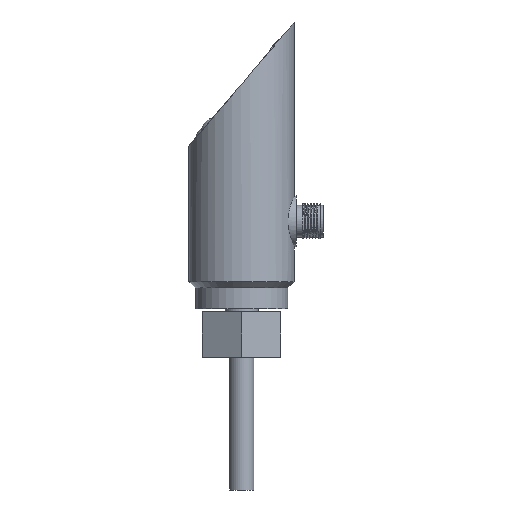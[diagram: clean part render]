
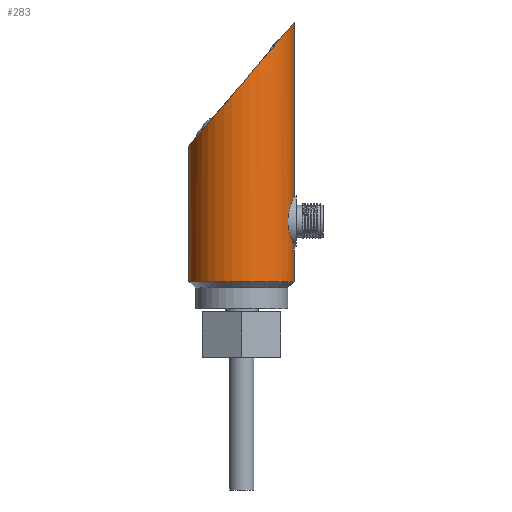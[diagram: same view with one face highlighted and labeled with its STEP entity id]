
A CAD part, front view. The second image highlights one B-rep face of the part: STEP entity #283.
In plain terms, the highlighted cylindrical face has radius 17.5 mm (diameter 35 mm), a full revolution.
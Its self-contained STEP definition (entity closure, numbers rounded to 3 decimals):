
#121=CYLINDRICAL_SURFACE('',#2872,17.5);
#278=ELLIPSE('',#2864,27.001,17.5);
#283=ADVANCED_FACE('',(#1138,#1139,#1140),#121,.T.);
#653=B_SPLINE_CURVE_WITH_KNOTS('',3,(#4228,#4229,#4230,#4231,#4232,#4233,
#4234,#4235,#4236,#4237,#4238,#4239,#4240,#4241,#4242,#4243,#4244,#4245),
 .UNSPECIFIED.,.T.,.F.,(2,2,2,2,2,2,2,2,2,2,2),(-0.125,0.,0.125,0.25,0.375,
0.5,0.625,0.75,0.875,1.,1.125),.UNSPECIFIED.);
#1138=FACE_BOUND('',#1211,.T.);
#1139=FACE_BOUND('',#1212,.T.);
#1140=FACE_BOUND('',#1213,.T.);
#1211=EDGE_LOOP('',(#1520));
#1212=EDGE_LOOP('',(#1521));
#1213=EDGE_LOOP('',(#1522));
#1520=ORIENTED_EDGE('',*,*,#2534,.T.);
#1521=ORIENTED_EDGE('',*,*,#2556,.F.);
#1522=ORIENTED_EDGE('',*,*,#2557,.T.);
#2267=VERTEX_POINT('',#4048);
#2288=VERTEX_POINT('',#4227);
#2289=VERTEX_POINT('',#4246);
#2534=EDGE_CURVE('',#2267,#2267,#278,.T.);
#2556=EDGE_CURVE('',#2288,#2288,#2831,.T.);
#2557=EDGE_CURVE('',#2289,#2289,#653,.T.);
#2831=CIRCLE('',#2871,17.5);
#2864=AXIS2_PLACEMENT_3D('',#4047,#3061,#3062);
#2871=AXIS2_PLACEMENT_3D('',#4226,#3090,#3091);
#2872=AXIS2_PLACEMENT_3D('',#4247,#3092,#3093);
#3061=DIRECTION('',(0.762,0.,-0.648));
#3062=DIRECTION('',(0.648,0.,0.762));
#3090=DIRECTION('',(0.,0.,-1.));
#3091=DIRECTION('',(-1.,0.,0.));
#3092=DIRECTION('',(0.,0.,1.));
#3093=DIRECTION('',(1.,0.,0.));
#4047=CARTESIAN_POINT('',(0.,0.,65.438));
#4048=CARTESIAN_POINT('',(17.5,0.,86.));
#4226=CARTESIAN_POINT('',(0.,0.,0.));
#4227=CARTESIAN_POINT('',(-17.5,0.,0.));
#4228=CARTESIAN_POINT('',(17.5,2.284,11.5));
#4229=CARTESIAN_POINT('',(17.5,-2.284,11.5));
#4230=CARTESIAN_POINT('',(16.998,-4.472,12.45));
#4231=CARTESIAN_POINT('',(15.871,-7.554,15.535));
#4232=CARTESIAN_POINT('',(15.3,-8.495,17.724));
#4233=CARTESIAN_POINT('',(15.294,-8.505,22.24));
#4234=CARTESIAN_POINT('',(15.867,-7.562,24.454));
#4235=CARTESIAN_POINT('',(16.996,-4.481,27.546));
#4236=CARTESIAN_POINT('',(17.497,-2.273,28.494));
#4237=CARTESIAN_POINT('',(17.503,2.231,28.506));
#4238=CARTESIAN_POINT('',(17.003,4.457,27.562));
#4239=CARTESIAN_POINT('',(15.87,7.558,24.465));
#4240=CARTESIAN_POINT('',(15.3,8.495,22.267));
#4241=CARTESIAN_POINT('',(15.294,8.505,17.77));
#4242=CARTESIAN_POINT('',(15.863,7.574,15.558));
#4243=CARTESIAN_POINT('',(17.002,4.464,12.439));
#4244=CARTESIAN_POINT('',(17.5,2.284,11.5));
#4245=CARTESIAN_POINT('',(17.5,-2.284,11.5));
#4246=CARTESIAN_POINT('',(17.5,0.,11.5));
#4247=CARTESIAN_POINT('',(0.,0.,0.));
